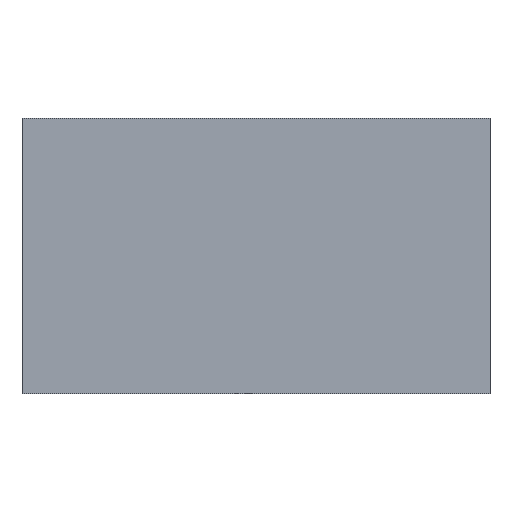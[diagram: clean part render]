
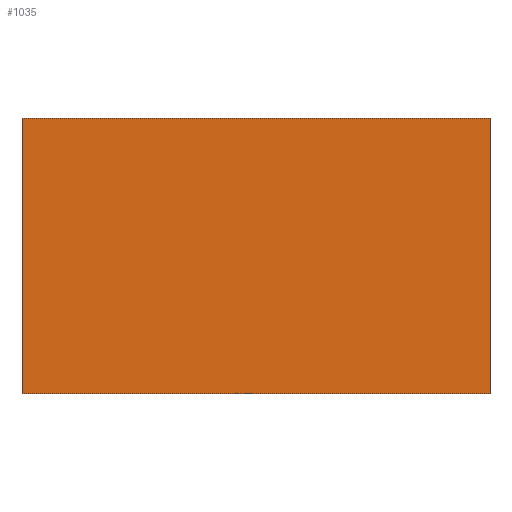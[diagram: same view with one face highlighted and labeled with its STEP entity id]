
A CAD part, front view. The second image highlights one B-rep face of the part: STEP entity #1035.
In plain terms, the highlighted planar face has unit normal (0.001, -1, 0).
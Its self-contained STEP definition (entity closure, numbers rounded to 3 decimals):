
#2 = VERTEX_POINT ( 'NONE', #1400 ) ;
#62 = DIRECTION ( 'NONE',  ( 0., 0., -1. ) ) ;
#85 = CARTESIAN_POINT ( 'NONE',  ( -0.121, 0., 10. ) ) ;
#95 = EDGE_CURVE ( 'NONE', #2, #729, #183, .T. ) ;
#113 = FACE_OUTER_BOUND ( 'NONE', #1479, .T. ) ;
#151 = CARTESIAN_POINT ( 'NONE',  ( 16.864, 0.01, 0. ) ) ;
#179 = LINE ( 'NONE', #678, #1590 ) ;
#183 = LINE ( 'NONE', #85, #847 ) ;
#199 = DIRECTION ( 'NONE',  ( 1., 0.001, 0. ) ) ;
#229 = VERTEX_POINT ( 'NONE', #784 ) ;
#249 = VECTOR ( 'NONE', #199, 1000. ) ;
#356 = AXIS2_PLACEMENT_3D ( 'NONE', #360, #1356, #880 ) ;
#360 = CARTESIAN_POINT ( 'NONE',  ( 16.864, 0.01, 10. ) ) ;
#379 = PLANE ( 'NONE',  #356 ) ;
#384 = CARTESIAN_POINT ( 'NONE',  ( 16.864, 0.01, 10. ) ) ;
#417 = ORIENTED_EDGE ( 'NONE', *, *, #812, .T. ) ;
#646 = VERTEX_POINT ( 'NONE', #905 ) ;
#678 = CARTESIAN_POINT ( 'NONE',  ( 16.864, 0.01, 10. ) ) ;
#723 = LINE ( 'NONE', #384, #1093 ) ;
#729 = VERTEX_POINT ( 'NONE', #1168 ) ;
#742 = EDGE_CURVE ( 'NONE', #646, #229, #179, .T. ) ;
#784 = CARTESIAN_POINT ( 'NONE',  ( 16.864, 0.01, 0. ) ) ;
#787 = ORIENTED_EDGE ( 'NONE', *, *, #742, .F. ) ;
#806 = ORIENTED_EDGE ( 'NONE', *, *, #1589, .F. ) ;
#812 = EDGE_CURVE ( 'NONE', #729, #229, #1280, .T. ) ;
#847 = VECTOR ( 'NONE', #918, 1000. ) ;
#857 = DIRECTION ( 'NONE',  ( 1., 0.001, 0. ) ) ;
#880 = DIRECTION ( 'NONE',  ( -1., -0.001, 0. ) ) ;
#905 = CARTESIAN_POINT ( 'NONE',  ( 16.864, 0.01, 10. ) ) ;
#918 = DIRECTION ( 'NONE',  ( 0., 0., -1. ) ) ;
#1035 = ADVANCED_FACE ( 'NONE', ( #113 ), #379, .F. ) ;
#1093 = VECTOR ( 'NONE', #857, 1000. ) ;
#1168 = CARTESIAN_POINT ( 'NONE',  ( -0.121, 0., 0. ) ) ;
#1280 = LINE ( 'NONE', #151, #249 ) ;
#1297 = ORIENTED_EDGE ( 'NONE', *, *, #95, .T. ) ;
#1356 = DIRECTION ( 'NONE',  ( -0.001, 1., 0. ) ) ;
#1400 = CARTESIAN_POINT ( 'NONE',  ( -0.121, 0., 10. ) ) ;
#1479 = EDGE_LOOP ( 'NONE', ( #417, #787, #806, #1297 ) ) ;
#1589 = EDGE_CURVE ( 'NONE', #2, #646, #723, .T. ) ;
#1590 = VECTOR ( 'NONE', #62, 1000. ) ;
